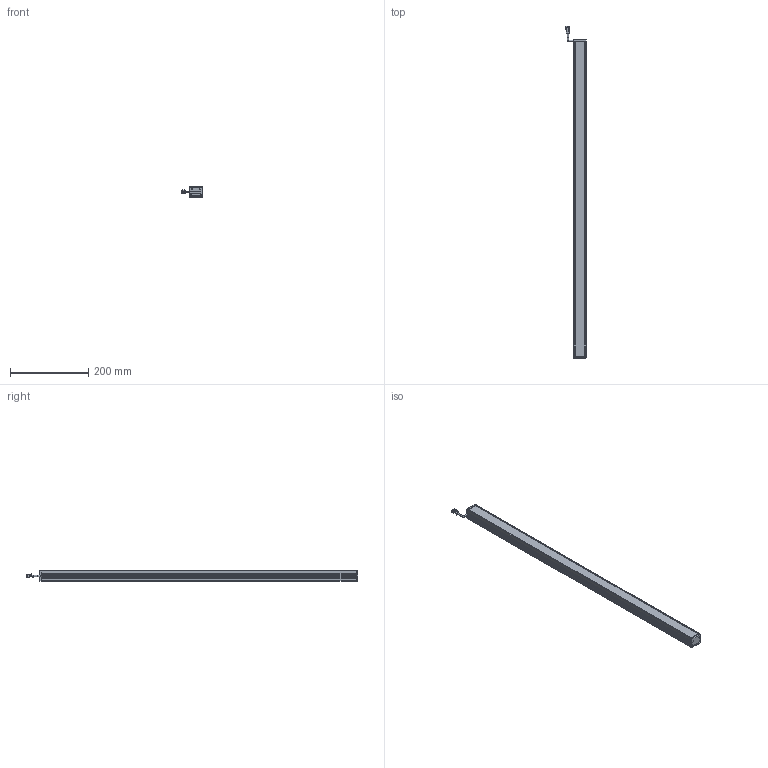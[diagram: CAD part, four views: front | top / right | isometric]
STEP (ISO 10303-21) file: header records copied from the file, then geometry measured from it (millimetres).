
FILE_DESCRIPTION(/* description */ (''),/* implementation_level */ '2;1');
FILE_NAME(/* name */ '',/* time_stamp */ '2024-02-21T10:53:54+08:00',/* author */ (''),/* organization */ (''),/* preprocessor_version */ 'ST-DEVELOPER v20',/* originating_system */ 'Autodesk Translation Framework v12.20.1.177',/* authorisation */ '');
FILE_SCHEMA (('AUTOMOTIVE_DESIGN { 1 0 10303 214 3 1 1 }'));
Length unit declared in the file: millimetre
Products named in the file (6): L30; 3拼母头 v2; 主体; 漫射板; 挡头 (1); 挡头
Assembly tree (5 placements, depth 2):
  L30
    3拼母头 v2
    主体
    漫射板
    挡头 (1)
    挡头
Bounding box: 52 x 849 x 27 mm (x, y, z)
Volume: 283023.1 mm3; surface area: 265799.9 mm2
Topology: 6 solids, 6 shells, 416 faces, 1179 edges, 784 vertices
Faces by surface type: plane 300, cylinder 111, cone 4, torus 1
Full cylindrical faces by diameter (mm): 2.529 x4, 3.8 x3
Entity records: 13619 total; most frequent: CARTESIAN_POINT 2391, ORIENTED_EDGE 2350, DIRECTION 2265, EDGE_CURVE 1175, LINE 937, VECTOR 937, VERTEX_POINT 784, AXIS2_PLACEMENT_3D 664
